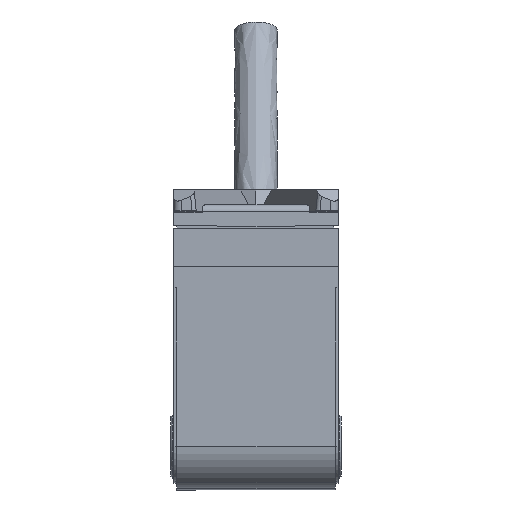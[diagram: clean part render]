
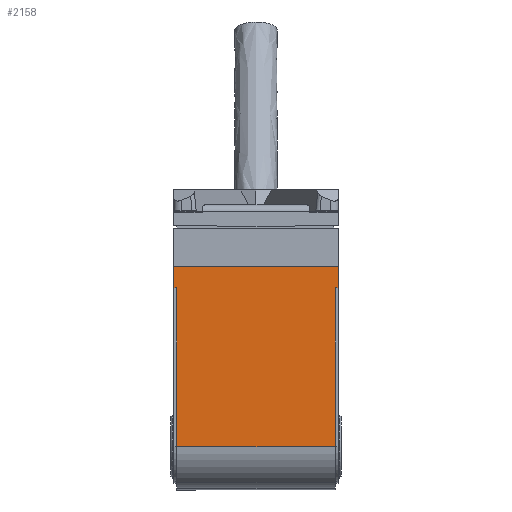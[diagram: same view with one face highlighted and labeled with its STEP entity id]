
A CAD part, front view. The second image highlights one B-rep face of the part: STEP entity #2158.
In plain terms, the highlighted planar face has unit normal (0, -1, 0).
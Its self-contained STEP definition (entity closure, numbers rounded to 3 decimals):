
#1754=FACE_OUTER_BOUND('',#2680,.T.);
#2158=ADVANCED_FACE('',(#1754),#2386,.F.);
#2386=PLANE('',#6965);
#2680=EDGE_LOOP('',(#3387,#3388,#3389,#3390,#3391,#3392,#3393,#3394));
#3387=ORIENTED_EDGE('',*,*,#5077,.F.);
#3388=ORIENTED_EDGE('',*,*,#5086,.F.);
#3389=ORIENTED_EDGE('',*,*,#5087,.F.);
#3390=ORIENTED_EDGE('',*,*,#5088,.F.);
#3391=ORIENTED_EDGE('',*,*,#4813,.T.);
#3392=ORIENTED_EDGE('',*,*,#5057,.F.);
#3393=ORIENTED_EDGE('',*,*,#5048,.T.);
#3394=ORIENTED_EDGE('',*,*,#5065,.T.);
#4329=VERTEX_POINT('',#8385);
#4330=VERTEX_POINT('',#8387);
#4500=VERTEX_POINT('',#9113);
#4501=VERTEX_POINT('',#9115);
#4513=VERTEX_POINT('',#9148);
#4520=VERTEX_POINT('',#9172);
#4524=VERTEX_POINT('',#9191);
#4525=VERTEX_POINT('',#9193);
#4813=EDGE_CURVE('',#4330,#4329,#5530,.T.);
#5048=EDGE_CURVE('',#4500,#4501,#5692,.T.);
#5057=EDGE_CURVE('',#4500,#4329,#5700,.T.);
#5065=EDGE_CURVE('',#4501,#4513,#5703,.T.);
#5077=EDGE_CURVE('',#4520,#4513,#5712,.T.);
#5086=EDGE_CURVE('',#4524,#4520,#5717,.T.);
#5087=EDGE_CURVE('',#4525,#4524,#5718,.T.);
#5088=EDGE_CURVE('',#4330,#4525,#5719,.T.);
#5530=LINE('',#8386,#6051);
#5692=LINE('',#9116,#6241);
#5700=LINE('',#9133,#6249);
#5703=LINE('',#9149,#6252);
#5712=LINE('',#9173,#6261);
#5717=LINE('',#9190,#6266);
#5718=LINE('',#9192,#6267);
#5719=LINE('',#9194,#6268);
#6051=VECTOR('',#7192,1.);
#6241=VECTOR('',#7502,1.);
#6249=VECTOR('',#7518,1.);
#6252=VECTOR('',#7533,1.);
#6261=VECTOR('',#7558,1.);
#6266=VECTOR('',#7581,1.);
#6267=VECTOR('',#7582,1.);
#6268=VECTOR('',#7583,1.);
#6965=AXIS2_PLACEMENT_3D('',#9195,#7584,#7585);
#7192=DIRECTION('',(-1.,0.,0.));
#7502=DIRECTION('',(1.,0.,0.));
#7518=DIRECTION('',(0.,0.,1.));
#7533=DIRECTION('',(0.,0.,-1.));
#7558=DIRECTION('',(-1.,0.,0.));
#7581=DIRECTION('',(0.,0.,-1.));
#7582=DIRECTION('',(-1.,0.,0.));
#7583=DIRECTION('',(0.,0.,-1.));
#7584=DIRECTION('',(0.,1.,0.));
#7585=DIRECTION('',(-1.,0.,0.));
#8385=CARTESIAN_POINT('',(-5.5,-16.4,16.65));
#8386=CARTESIAN_POINT('',(-0.1,-16.4,16.65));
#8387=CARTESIAN_POINT('',(5.5,-16.4,16.65));
#9113=CARTESIAN_POINT('',(-5.5,-16.4,15.25));
#9115=CARTESIAN_POINT('',(-5.3,-16.4,15.25));
#9116=CARTESIAN_POINT('',(-5.3,-16.4,15.25));
#9133=CARTESIAN_POINT('',(-5.5,-16.4,20.85));
#9148=CARTESIAN_POINT('',(-5.3,-16.4,4.65));
#9149=CARTESIAN_POINT('',(-5.3,-16.4,15.25));
#9172=CARTESIAN_POINT('',(5.3,-16.4,4.65));
#9173=CARTESIAN_POINT('',(6.05,-16.4,4.65));
#9190=CARTESIAN_POINT('',(5.3,-16.4,15.25));
#9191=CARTESIAN_POINT('',(5.3,-16.4,15.25));
#9192=CARTESIAN_POINT('',(5.3,-16.4,15.25));
#9193=CARTESIAN_POINT('',(5.5,-16.4,15.25));
#9194=CARTESIAN_POINT('',(5.5,-16.4,20.85));
#9195=CARTESIAN_POINT('',(-0.1,-16.4,2.35));
